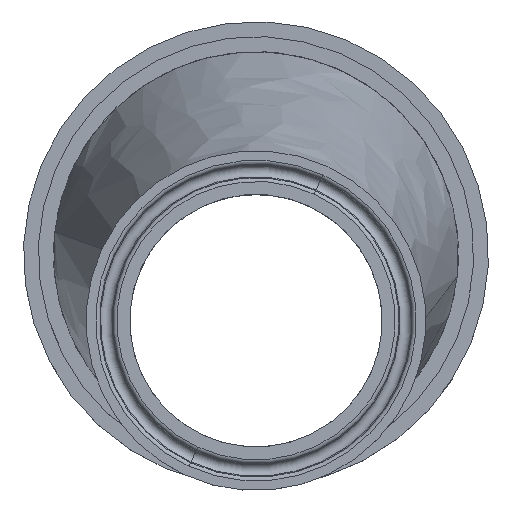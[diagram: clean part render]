
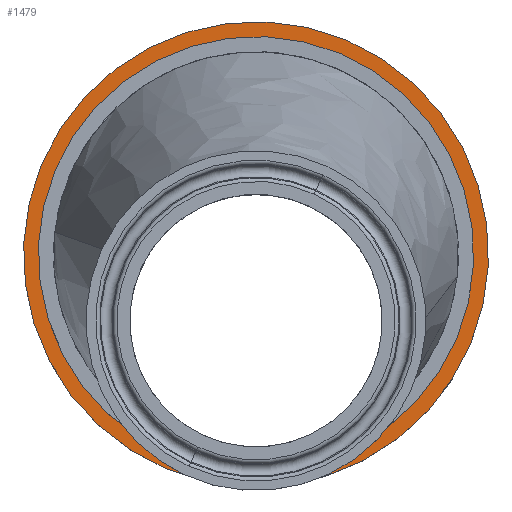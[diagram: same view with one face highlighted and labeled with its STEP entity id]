
A CAD part, top view. The second image highlights one B-rep face of the part: STEP entity #1479.
In plain terms, the highlighted planar face has unit normal (0, 0, 1) as drawn and (1, 0, 0) by its records, which use the part's own axes.
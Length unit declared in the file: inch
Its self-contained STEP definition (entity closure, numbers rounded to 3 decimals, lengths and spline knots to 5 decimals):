
#103 = EDGE_CURVE ( 'NONE', #586, #1562, #986, .T. ) ;
#246 = DIRECTION ( 'NONE',  ( -1., 0., 0. ) ) ;
#300 = AXIS2_PLACEMENT_3D ( 'NONE', #891, #418, #1023 ) ;
#362 = DIRECTION ( 'NONE',  ( 1., 0., 0. ) ) ;
#418 = DIRECTION ( 'NONE',  ( -1., 0., 0. ) ) ;
#444 = CARTESIAN_POINT ( 'NONE',  ( -0.44, 1.5, 0. ) ) ;
#493 = AXIS2_PLACEMENT_3D ( 'NONE', #1504, #856, #1492 ) ;
#494 = EDGE_CURVE ( 'NONE', #499, #913, #1978, .T. ) ;
#499 = VERTEX_POINT ( 'NONE', #594 ) ;
#503 = ORIENTED_EDGE ( 'NONE', *, *, #679, .F. ) ;
#553 = FACE_OUTER_BOUND ( 'NONE', #1252, .T. ) ;
#556 = CARTESIAN_POINT ( 'NONE',  ( -0.44, 1.5, 0. ) ) ;
#586 = VERTEX_POINT ( 'NONE', #1783 ) ;
#594 = CARTESIAN_POINT ( 'NONE',  ( -0.44, 1.5, -1.722 ) ) ;
#616 = AXIS2_PLACEMENT_3D ( 'NONE', #444, #1048, #1326 ) ;
#662 = FACE_BOUND ( 'NONE', #1320, .T. ) ;
#679 = EDGE_CURVE ( 'NONE', #913, #499, #1706, .T. ) ;
#714 = CARTESIAN_POINT ( 'NONE',  ( -0.44, 1.5, 1.612 ) ) ;
#856 = DIRECTION ( 'NONE',  ( -1., 0., 0. ) ) ;
#891 = CARTESIAN_POINT ( 'NONE',  ( -0.44, 1.5, 0. ) ) ;
#913 = VERTEX_POINT ( 'NONE', #1350 ) ;
#940 = EDGE_CURVE ( 'NONE', #1562, #586, #1477, .T. ) ;
#962 = DIRECTION ( 'NONE',  ( 0., 0., -1. ) ) ;
#986 = CIRCLE ( 'NONE', #616, 1.612 ) ;
#1023 = DIRECTION ( 'NONE',  ( 0., 0., 1. ) ) ;
#1048 = DIRECTION ( 'NONE',  ( -1., 0., 0. ) ) ;
#1112 = CARTESIAN_POINT ( 'NONE',  ( -0.44, -0.112, 0. ) ) ;
#1242 = AXIS2_PLACEMENT_3D ( 'NONE', #1112, #362, #962 ) ;
#1252 = EDGE_LOOP ( 'NONE', ( #503, #1811 ) ) ;
#1264 = PLANE ( 'NONE',  #1242 ) ;
#1320 = EDGE_LOOP ( 'NONE', ( #1767, #1852 ) ) ;
#1326 = DIRECTION ( 'NONE',  ( 0., 0., 1. ) ) ;
#1350 = CARTESIAN_POINT ( 'NONE',  ( -0.44, 1.5, 1.722 ) ) ;
#1477 = CIRCLE ( 'NONE', #493, 1.612 ) ;
#1479 = ADVANCED_FACE ( 'NONE', ( #662, #553 ), #1264, .T. ) ;
#1492 = DIRECTION ( 'NONE',  ( 0., 0., 1. ) ) ;
#1504 = CARTESIAN_POINT ( 'NONE',  ( -0.44, 1.5, 0. ) ) ;
#1562 = VERTEX_POINT ( 'NONE', #714 ) ;
#1586 = DIRECTION ( 'NONE',  ( 0., 0., 1. ) ) ;
#1706 = CIRCLE ( 'NONE', #1841, 1.722 ) ;
#1767 = ORIENTED_EDGE ( 'NONE', *, *, #940, .T. ) ;
#1783 = CARTESIAN_POINT ( 'NONE',  ( -0.44, 1.5, -1.612 ) ) ;
#1811 = ORIENTED_EDGE ( 'NONE', *, *, #494, .F. ) ;
#1841 = AXIS2_PLACEMENT_3D ( 'NONE', #556, #246, #1586 ) ;
#1852 = ORIENTED_EDGE ( 'NONE', *, *, #103, .T. ) ;
#1978 = CIRCLE ( 'NONE', #300, 1.722 ) ;
